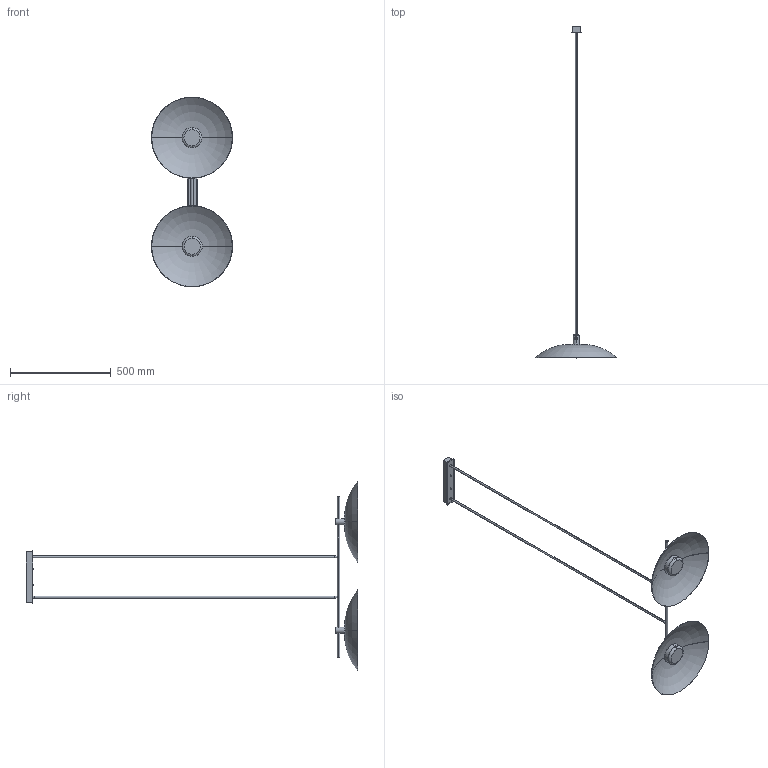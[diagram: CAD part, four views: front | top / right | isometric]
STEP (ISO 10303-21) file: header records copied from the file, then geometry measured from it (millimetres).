
FILE_DESCRIPTION (( 'STEP AP214' ), '1' );
FILE_NAME ('BETTY_C1338_2.STEP', '2025-01-17T15:05:39', ( '' ), ( '' ), 'SwSTEP 2.0', 'SolidWorks 2018', '' );
FILE_SCHEMA (( 'AUTOMOTIVE_DESIGN' ));
Length unit declared in the file: millimetre
Products named in the file (1): BETTY_C1338_2
Bounding box: 402.89 x 1645.98 x 941.32 mm (x, y, z)
Volume: 1919347.3 mm3; surface area: 928417.5 mm2
Topology: 20 solids, 20 shells, 114 faces, 204 edges, 124 vertices
Faces by surface type: plane 46, cylinder 40, torus 24, cone 4
Entity records: 4355 total; most frequent: CARTESIAN_POINT 595, DIRECTION 546, ORIENTED_EDGE 392, AXIS2_PLACEMENT_3D 239, EDGE_CURVE 196, UNCERTAINTY_MEASURE_WITH_UNIT 136, PRESENTATION_STYLE_ASSIGNMENT 135, STYLED_ITEM 135
